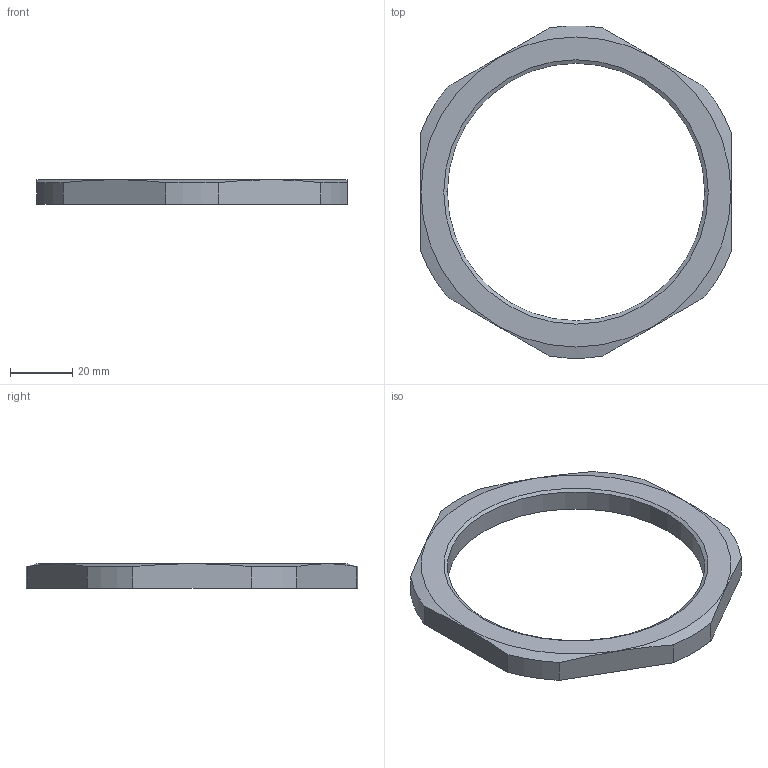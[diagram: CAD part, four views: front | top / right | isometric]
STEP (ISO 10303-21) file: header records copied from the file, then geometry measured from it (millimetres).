
FILE_DESCRIPTION (( 'STEP AP203' ), '1' );
FILE_NAME ('50.285 M.STEP', '2006-05-22T07:14:38', ( ' ' ), ( '' ), 'SwSTEP 2.0', 'SolidWorks 2005278', '' );
FILE_SCHEMA (( 'CONFIG_CONTROL_DESIGN' ));
Length unit declared in the file: millimetre
Products named in the file (1): 50.285 M
Bounding box: 100 x 106.85 x 8 mm (x, y, z)
Volume: 24082.4 mm3; surface area: 10465.2 mm2
Topology: 1 solids, 1 shells, 59 faces, 158 edges, 104 vertices
Faces by surface type: plane 45, cylinder 8, cone 6
Entity records: 1939 total; most frequent: CARTESIAN_POINT 374, ORIENTED_EDGE 316, DIRECTION 292, EDGE_CURVE 158, VECTOR 128, LINE 128, VERTEX_POINT 104, AXIS2_PLACEMENT_3D 82
